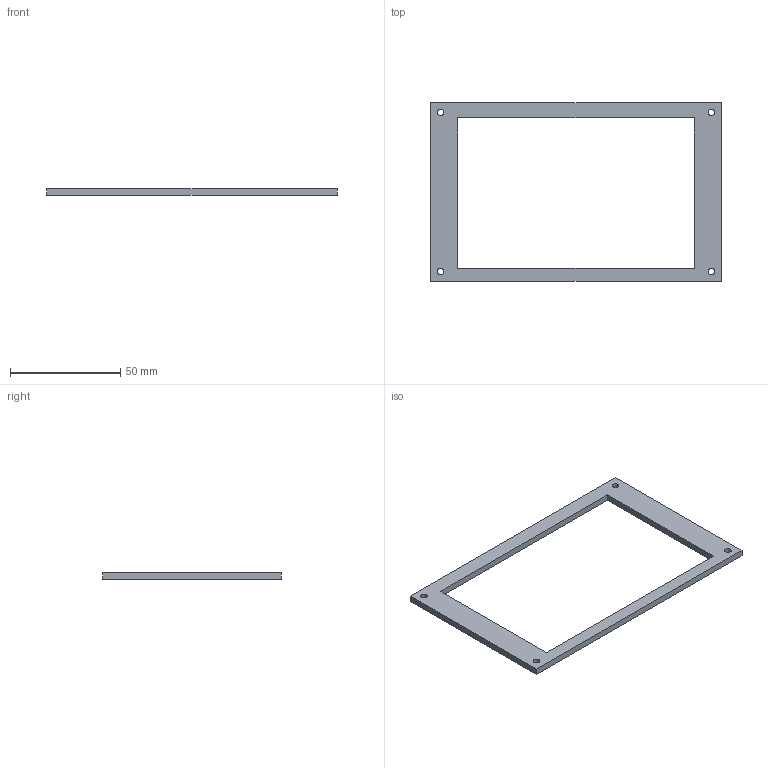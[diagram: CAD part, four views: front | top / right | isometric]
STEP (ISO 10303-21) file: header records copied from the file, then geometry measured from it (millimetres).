
FILE_DESCRIPTION(('FreeCAD Model'),'2;1');
FILE_NAME('/home/mike/Documents/3D/FreeCAD/CNC/STEP/Case_Frame.step', '2017-05-30T22:13:49',('Author'),(''), 'Open CASCADE STEP processor 6.7','FreeCAD','Unknown');
FILE_SCHEMA(('AUTOMOTIVE_DESIGN_CC2 { 1 2 10303 214 -1 1 5 4 }'));
Length unit declared in the file: millimetre
Products named in the file (1): Frame
Bounding box: 131.5 x 81 x 3 mm (x, y, z)
Volume: 10041.7 mm3; surface area: 9132.5 mm2
Topology: 1 solids, 1 shells, 14 faces, 36 edges, 24 vertices
Faces by surface type: plane 10, cylinder 4
Full cylindrical faces by diameter (mm): 3 x4
Entity records: 949 total; most frequent: CARTESIAN_POINT 171, DIRECTION 142, LINE 92, VECTOR 92, ORIENTED_EDGE 72, PCURVE 72, DEFINITIONAL_REPRESENTATION 72, EDGE_CURVE 36
